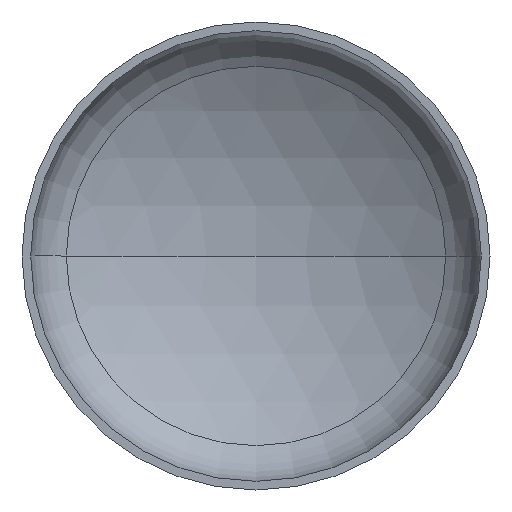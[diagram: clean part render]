
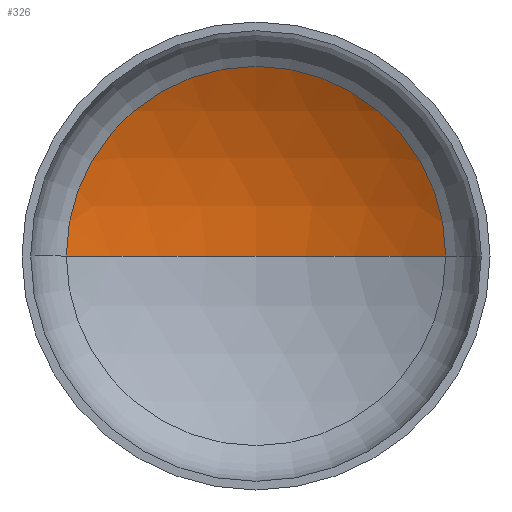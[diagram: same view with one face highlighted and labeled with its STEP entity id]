
A CAD part, front view. The second image highlights one B-rep face of the part: STEP entity #326.
In plain terms, the highlighted spherical face has radius 4800 mm.
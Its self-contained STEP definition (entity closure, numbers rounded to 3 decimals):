
#11 = AXIS2_PLACEMENT_3D ( 'NONE', #375, #66, #281 ) ;
#16 = VERTEX_POINT ( 'NONE', #51 ) ;
#41 = ORIENTED_EDGE ( 'NONE', *, *, #110, .F. ) ;
#50 = AXIS2_PLACEMENT_3D ( 'NONE', #140, #143, #166 ) ;
#51 = CARTESIAN_POINT ( 'NONE',  ( 2431.587, 872.528, 0. ) ) ;
#52 = AXIS2_PLACEMENT_3D ( 'NONE', #136, #355, #357 ) ;
#56 = AXIS2_PLACEMENT_3D ( 'NONE', #169, #172, #179 ) ;
#66 = DIRECTION ( 'NONE',  ( 0., 0., -1. ) ) ;
#86 = CARTESIAN_POINT ( 'NONE',  ( -2431.587, 872.528, 0. ) ) ;
#107 = EDGE_CURVE ( 'NONE', #16, #225, #217, .T. ) ;
#109 = EDGE_CURVE ( 'NONE', #152, #16, #401, .T. ) ;
#110 = EDGE_CURVE ( 'NONE', #152, #225, #393, .T. ) ;
#127 = CARTESIAN_POINT ( 'NONE',  ( 0., 1534.004, 0. ) ) ;
#136 = CARTESIAN_POINT ( 'NONE',  ( 0., -3265.996, 0. ) ) ;
#140 = CARTESIAN_POINT ( 'NONE',  ( 0., -3265.996, 0. ) ) ;
#143 = DIRECTION ( 'NONE',  ( 0., 0., 1. ) ) ;
#152 = VERTEX_POINT ( 'NONE', #127 ) ;
#166 = DIRECTION ( 'NONE',  ( 1., 0., 0. ) ) ;
#169 = CARTESIAN_POINT ( 'NONE',  ( 0., 872.528, 0. ) ) ;
#172 = DIRECTION ( 'NONE',  ( 0., -1., 0. ) ) ;
#179 = DIRECTION ( 'NONE',  ( 1., 0., 0. ) ) ;
#199 = EDGE_LOOP ( 'NONE', ( #41, #213, #201 ) ) ;
#201 = ORIENTED_EDGE ( 'NONE', *, *, #107, .T. ) ;
#213 = ORIENTED_EDGE ( 'NONE', *, *, #109, .T. ) ;
#217 = CIRCLE ( 'NONE', #56, 2431.587 ) ;
#225 = VERTEX_POINT ( 'NONE', #86 ) ;
#256 = SPHERICAL_SURFACE ( 'NONE', #11, 4800. ) ;
#281 = DIRECTION ( 'NONE',  ( -1., 0., 0. ) ) ;
#326 = ADVANCED_FACE ( 'NONE', ( #372 ), #256, .F. ) ;
#355 = DIRECTION ( 'NONE',  ( 0., 0., -1. ) ) ;
#357 = DIRECTION ( 'NONE',  ( -1., 0., 0. ) ) ;
#372 = FACE_OUTER_BOUND ( 'NONE', #199, .T. ) ;
#375 = CARTESIAN_POINT ( 'NONE',  ( 0., -3265.996, 0. ) ) ;
#393 = CIRCLE ( 'NONE', #50, 4800. ) ;
#401 = CIRCLE ( 'NONE', #52, 4800. ) ;
